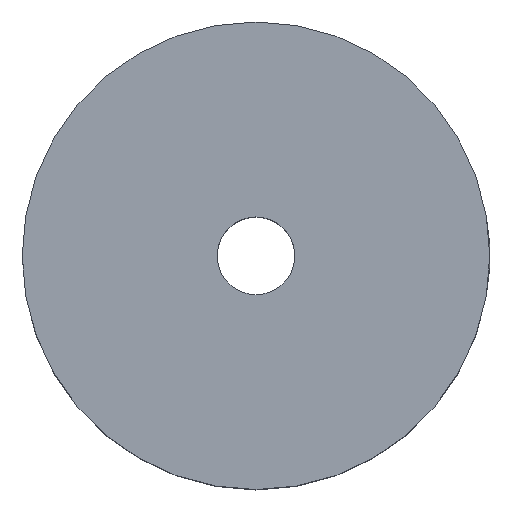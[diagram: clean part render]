
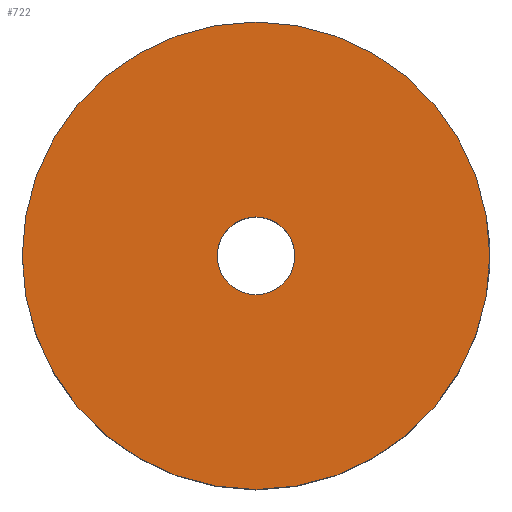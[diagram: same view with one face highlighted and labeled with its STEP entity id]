
A CAD part, top view. The second image highlights one B-rep face of the part: STEP entity #722.
In plain terms, the highlighted planar face has unit normal (0, 0, 1).
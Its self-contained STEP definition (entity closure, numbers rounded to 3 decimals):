
#31 = CYLINDRICAL_SURFACE('',#32,25.);
#32 = AXIS2_PLACEMENT_3D('',#33,#34,#35);
#33 = CARTESIAN_POINT('',(0.,0.,0.));
#34 = DIRECTION('',(-0.,-0.,-1.));
#35 = DIRECTION('',(1.,0.,0.));
#176 = VERTEX_POINT('',#177);
#177 = CARTESIAN_POINT('',(25.,0.,25.));
#198 = EDGE_CURVE('',#176,#176,#199,.T.);
#199 = SURFACE_CURVE('',#200,(#205,#212),.PCURVE_S1.);
#200 = CIRCLE('',#201,25.);
#201 = AXIS2_PLACEMENT_3D('',#202,#203,#204);
#202 = CARTESIAN_POINT('',(0.,0.,25.));
#203 = DIRECTION('',(0.,0.,1.));
#204 = DIRECTION('',(1.,0.,0.));
#205 = PCURVE('',#31,#206);
#206 = DEFINITIONAL_REPRESENTATION('',(#207),#211);
#207 = LINE('',#208,#209);
#208 = CARTESIAN_POINT('',(-0.,-25.));
#209 = VECTOR('',#210,1.);
#210 = DIRECTION('',(-1.,0.));
#211 = ( GEOMETRIC_REPRESENTATION_CONTEXT(2) 
PARAMETRIC_REPRESENTATION_CONTEXT() REPRESENTATION_CONTEXT('2D SPACE',''
  ) );
#212 = PCURVE('',#213,#218);
#213 = PLANE('',#214);
#214 = AXIS2_PLACEMENT_3D('',#215,#216,#217);
#215 = CARTESIAN_POINT('',(0.,0.,
    25.));
#216 = DIRECTION('',(0.,0.,1.));
#217 = DIRECTION('',(1.,0.,-0.));
#218 = DEFINITIONAL_REPRESENTATION('',(#219),#223);
#219 = CIRCLE('',#220,25.);
#220 = AXIS2_PLACEMENT_2D('',#221,#222);
#221 = CARTESIAN_POINT('',(0.,0.));
#222 = DIRECTION('',(1.,0.));
#223 = ( GEOMETRIC_REPRESENTATION_CONTEXT(2) 
PARAMETRIC_REPRESENTATION_CONTEXT() REPRESENTATION_CONTEXT('2D SPACE',''
  ) );
#344 = CYLINDRICAL_SURFACE('',#345,4.15);
#345 = AXIS2_PLACEMENT_3D('',#346,#347,#348);
#346 = CARTESIAN_POINT('',(0.,0.,-1.));
#347 = DIRECTION('',(-0.,-0.,-1.));
#348 = DIRECTION('',(1.,0.,0.));
#722 = ADVANCED_FACE('',(#723,#726),#213,.T.);
#723 = FACE_BOUND('',#724,.T.);
#724 = EDGE_LOOP('',(#725));
#725 = ORIENTED_EDGE('',*,*,#198,.T.);
#726 = FACE_BOUND('',#727,.T.);
#727 = EDGE_LOOP('',(#728));
#728 = ORIENTED_EDGE('',*,*,#729,.T.);
#729 = EDGE_CURVE('',#730,#730,#732,.T.);
#730 = VERTEX_POINT('',#731);
#731 = CARTESIAN_POINT('',(4.15,0.,25.));
#732 = SURFACE_CURVE('',#733,(#738,#749),.PCURVE_S1.);
#733 = CIRCLE('',#734,4.15);
#734 = AXIS2_PLACEMENT_3D('',#735,#736,#737);
#735 = CARTESIAN_POINT('',(0.,0.,25.));
#736 = DIRECTION('',(0.,0.,-1.));
#737 = DIRECTION('',(1.,0.,0.));
#738 = PCURVE('',#213,#739);
#739 = DEFINITIONAL_REPRESENTATION('',(#740),#748);
#740 = ( BOUNDED_CURVE() B_SPLINE_CURVE(2,(#741,#742,#743,#744,#745,#746
,#747),.UNSPECIFIED.,.T.,.F.) B_SPLINE_CURVE_WITH_KNOTS((1,2,2,2,2,1),(
    -2.094,0.,2.094,4.189,6.283,
8.378),.UNSPECIFIED.) CURVE() GEOMETRIC_REPRESENTATION_ITEM() 
RATIONAL_B_SPLINE_CURVE((1.,0.5,1.,0.5,1.,0.5,1.)) REPRESENTATION_ITEM(
  '') );
#741 = CARTESIAN_POINT('',(4.15,0.));
#742 = CARTESIAN_POINT('',(4.15,-7.188));
#743 = CARTESIAN_POINT('',(-2.075,-3.594));
#744 = CARTESIAN_POINT('',(-8.3,0.));
#745 = CARTESIAN_POINT('',(-2.075,3.594));
#746 = CARTESIAN_POINT('',(4.15,7.188));
#747 = CARTESIAN_POINT('',(4.15,0.));
#748 = ( GEOMETRIC_REPRESENTATION_CONTEXT(2) 
PARAMETRIC_REPRESENTATION_CONTEXT() REPRESENTATION_CONTEXT('2D SPACE',''
  ) );
#749 = PCURVE('',#344,#750);
#750 = DEFINITIONAL_REPRESENTATION('',(#751),#755);
#751 = LINE('',#752,#753);
#752 = CARTESIAN_POINT('',(-6.283,-26.));
#753 = VECTOR('',#754,1.);
#754 = DIRECTION('',(1.,-0.));
#755 = ( GEOMETRIC_REPRESENTATION_CONTEXT(2) 
PARAMETRIC_REPRESENTATION_CONTEXT() REPRESENTATION_CONTEXT('2D SPACE',''
  ) );
